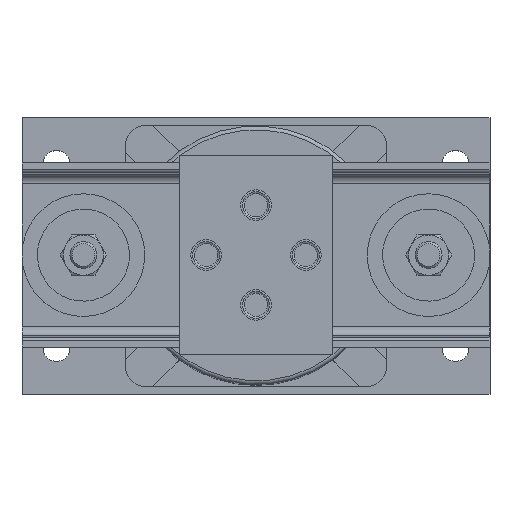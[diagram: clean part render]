
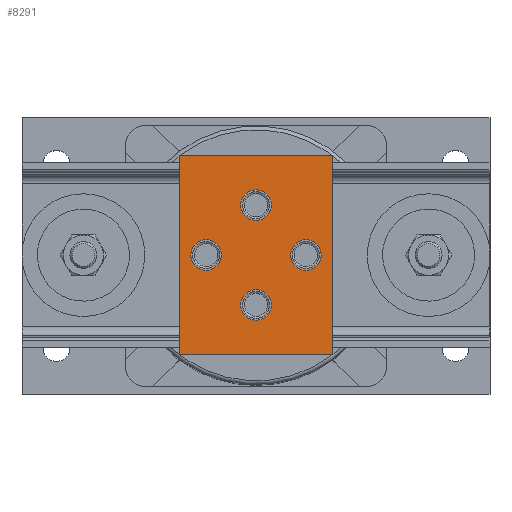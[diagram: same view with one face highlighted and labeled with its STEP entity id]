
A CAD part, top view. The second image highlights one B-rep face of the part: STEP entity #8291.
In plain terms, the highlighted planar face has unit normal (0, 0, 1).
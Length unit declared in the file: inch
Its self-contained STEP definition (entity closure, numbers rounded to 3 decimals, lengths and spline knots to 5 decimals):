
#495=FACE_BOUND('',#1758,.T.);
#496=FACE_BOUND('',#1759,.T.);
#497=FACE_BOUND('',#1760,.T.);
#498=FACE_BOUND('',#1761,.T.);
#716=CIRCLE('',#8933,0.5);
#718=CIRCLE('',#8936,0.5);
#720=CIRCLE('',#8939,0.5);
#722=CIRCLE('',#8942,0.5);
#1172=FACE_OUTER_BOUND('',#1757,.T.);
#1757=EDGE_LOOP('',(#5745,#5746,#5747,#5748));
#1758=EDGE_LOOP('',(#5749));
#1759=EDGE_LOOP('',(#5750));
#1760=EDGE_LOOP('',(#5751));
#1761=EDGE_LOOP('',(#5752));
#2419=LINE('',#12406,#2935);
#2423=LINE('',#12414,#2939);
#2426=LINE('',#12420,#2942);
#2429=LINE('',#12425,#2945);
#2935=VECTOR('',#10229,6.5);
#2939=VECTOR('',#10235,5.);
#2942=VECTOR('',#10240,6.5);
#2945=VECTOR('',#10245,5.);
#3466=VERTEX_POINT('',#12386);
#3468=VERTEX_POINT('',#12391);
#3470=VERTEX_POINT('',#12396);
#3472=VERTEX_POINT('',#12401);
#3473=VERTEX_POINT('',#12404);
#3474=VERTEX_POINT('',#12405);
#3477=VERTEX_POINT('',#12413);
#3479=VERTEX_POINT('',#12419);
#4297=EDGE_CURVE('',#3466,#3466,#716,.T.);
#4299=EDGE_CURVE('',#3468,#3468,#718,.T.);
#4301=EDGE_CURVE('',#3470,#3470,#720,.T.);
#4303=EDGE_CURVE('',#3472,#3472,#722,.T.);
#4304=EDGE_CURVE('',#3473,#3474,#2419,.T.);
#4308=EDGE_CURVE('',#3474,#3477,#2423,.T.);
#4311=EDGE_CURVE('',#3477,#3479,#2426,.T.);
#4314=EDGE_CURVE('',#3479,#3473,#2429,.T.);
#5745=ORIENTED_EDGE('',*,*,#4304,.F.);
#5746=ORIENTED_EDGE('',*,*,#4314,.F.);
#5747=ORIENTED_EDGE('',*,*,#4311,.F.);
#5748=ORIENTED_EDGE('',*,*,#4308,.F.);
#5749=ORIENTED_EDGE('',*,*,#4297,.T.);
#5750=ORIENTED_EDGE('',*,*,#4299,.T.);
#5751=ORIENTED_EDGE('',*,*,#4301,.T.);
#5752=ORIENTED_EDGE('',*,*,#4303,.T.);
#7379=PLANE('',#8947);
#8291=ADVANCED_FACE('',(#1172,#495,#496,#497,#498),#7379,.T.);
#8933=AXIS2_PLACEMENT_3D('',#12387,#10207,#10208);
#8936=AXIS2_PLACEMENT_3D('',#12392,#10213,#10214);
#8939=AXIS2_PLACEMENT_3D('',#12397,#10219,#10220);
#8942=AXIS2_PLACEMENT_3D('',#12402,#10225,#10226);
#8947=AXIS2_PLACEMENT_3D('',#12427,#10247,#10248);
#10207=DIRECTION('center_axis',(0.,0.,
-1.));
#10208=DIRECTION('ref_axis',(-1.,0.,0.));
#10213=DIRECTION('center_axis',(0.,0.,
-1.));
#10214=DIRECTION('ref_axis',(-1.,0.,0.));
#10219=DIRECTION('center_axis',(0.,0.,
-1.));
#10220=DIRECTION('ref_axis',(-1.,0.,0.));
#10225=DIRECTION('center_axis',(0.,0.,
-1.));
#10226=DIRECTION('ref_axis',(-1.,0.,0.));
#10229=DIRECTION('',(0.,1.,0.));
#10235=DIRECTION('',(1.,0.,0.));
#10240=DIRECTION('',(0.,-1.,0.));
#10245=DIRECTION('',(-1.,0.,0.));
#10247=DIRECTION('center_axis',(0.,0.,
1.));
#10248=DIRECTION('ref_axis',(-1.,0.,0.));
#12386=CARTESIAN_POINT('',(-0.5,1.625,18.625));
#12387=CARTESIAN_POINT('Origin',(0.,1.625,18.625));
#12391=CARTESIAN_POINT('',(-2.125,0.,18.625));
#12392=CARTESIAN_POINT('Origin',(-1.625,0.,18.625));
#12396=CARTESIAN_POINT('',(-0.5,-1.625,18.625));
#12397=CARTESIAN_POINT('Origin',(0.,-1.625,18.625));
#12401=CARTESIAN_POINT('',(1.125,0.,18.625));
#12402=CARTESIAN_POINT('Origin',(1.625,0.,18.625));
#12404=CARTESIAN_POINT('',(-2.5,-3.25,18.625));
#12405=CARTESIAN_POINT('',(-2.5,3.25,18.625));
#12406=CARTESIAN_POINT('',(-2.5,-3.25,18.625));
#12413=CARTESIAN_POINT('',(2.5,3.25,18.625));
#12414=CARTESIAN_POINT('',(-2.5,3.25,18.625));
#12419=CARTESIAN_POINT('',(2.5,-3.25,18.625));
#12420=CARTESIAN_POINT('',(2.5,3.25,18.625));
#12425=CARTESIAN_POINT('',(2.5,-3.25,18.625));
#12427=CARTESIAN_POINT('Origin',(0.,0.,
18.625));
